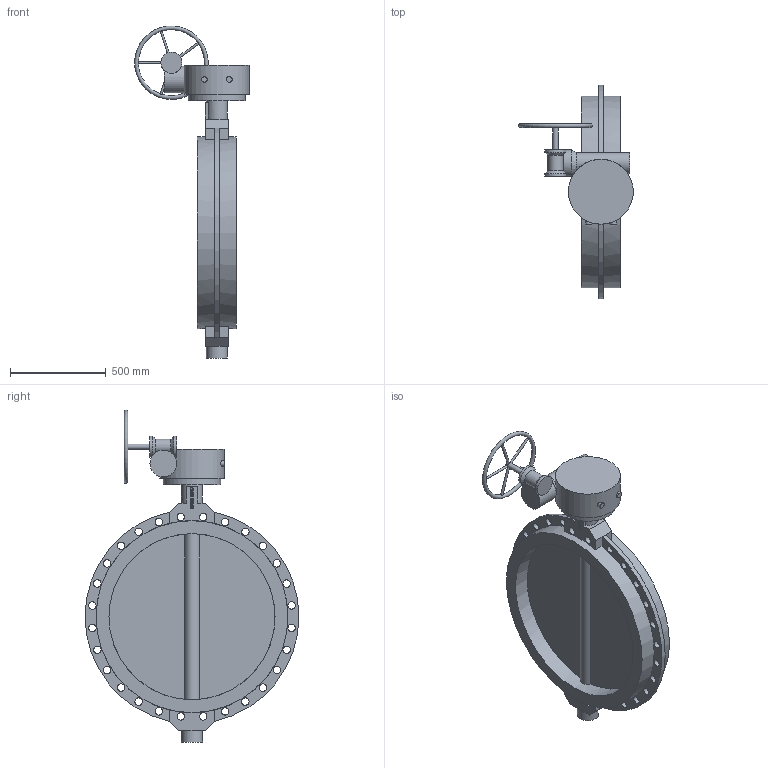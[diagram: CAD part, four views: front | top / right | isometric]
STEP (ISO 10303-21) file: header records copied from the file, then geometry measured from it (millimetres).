
FILE_DESCRIPTION(('STEP AP203'), '1');
FILE_NAME('青蜮铕 017W.ZS DN900 PN16 疱潴牝铕', '', ('UNSPECIFIED'), ('UNSPECIFIED'), 'ASCON STEP Converter 1.6', 'ASCON Math Kernel', '');
FILE_SCHEMA(('CONFIG_CONTROL_DESIGN'));
Length unit declared in the file: millimetre
Bounding box: 600.48 x 1120 x 1738.19 mm (x, y, z)
Volume: 90802394.1 mm3; surface area: 3944058.9 mm2
Topology: 1 solids, 1 shells, 731 faces, 2044 edges, 1359 vertices
Faces by surface type: cylinder 537, plane 190, cone 3, torus 1
Full cylindrical faces by diameter (mm): 12 x5, 14 x8, 18 x8, 28 x1, 30 x2, 39 x28, 110 x5, 140 x1, 300 x1, 340 x1, 870 x2, 1005 x2
Entity records: 32591 total; most frequent: CARTESIAN_POINT 7003, DIRECTION 4487, ORIENTED_EDGE 3952, EDGE_CURVE 1976, AXIS2_PLACEMENT_3D 1807, VERTEX_POINT 1358, CIRCLE 1075, EDGE_LOOP 906
